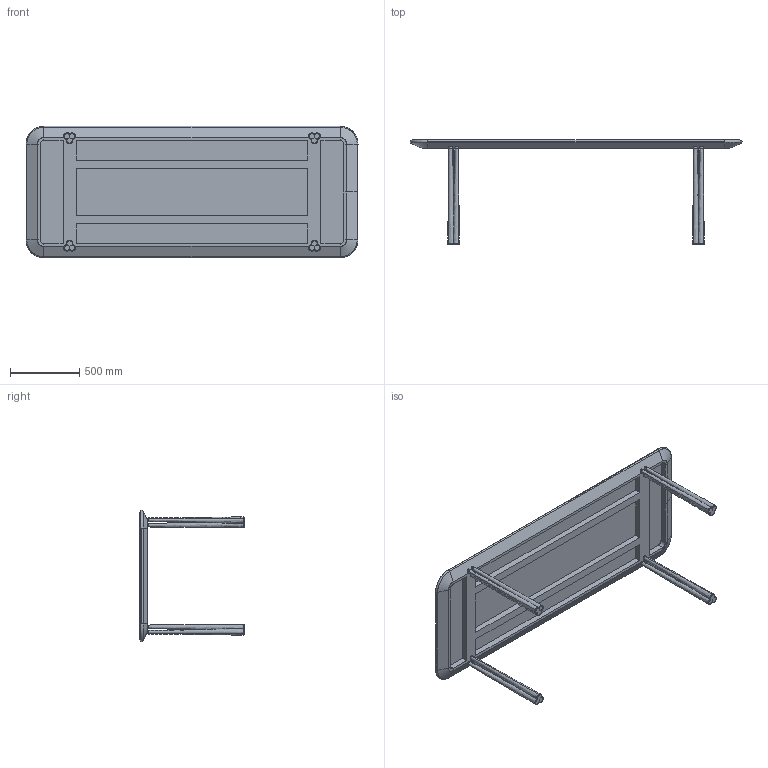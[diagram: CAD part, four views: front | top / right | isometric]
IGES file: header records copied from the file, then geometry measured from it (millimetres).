
Start section: SolidWorks IGES file using analytic representation for surfaces
Global section: file name: E:\Box Sync\Jason Miller\056 Rectangular Elliot Dining Table\sales related\SW\056M Rectangular Elliot Dining Table\056M Rectangular Elliot Dining Table.IGS; native system: SolidWorks 2016; preprocessor: SolidWorks 2016; author: Kumagai; date: 181024.104920; units: millimetre
Bounding box: 2400 x 753.5 x 950 mm (x, y, z)
Surface area: 6339756.7 mm2 (no closed solid volume)
Topology: 0 solids, 0 shells, 253 faces, 5318 edges, 5318 vertices
Faces by surface type: bspline 177, revolution 76
